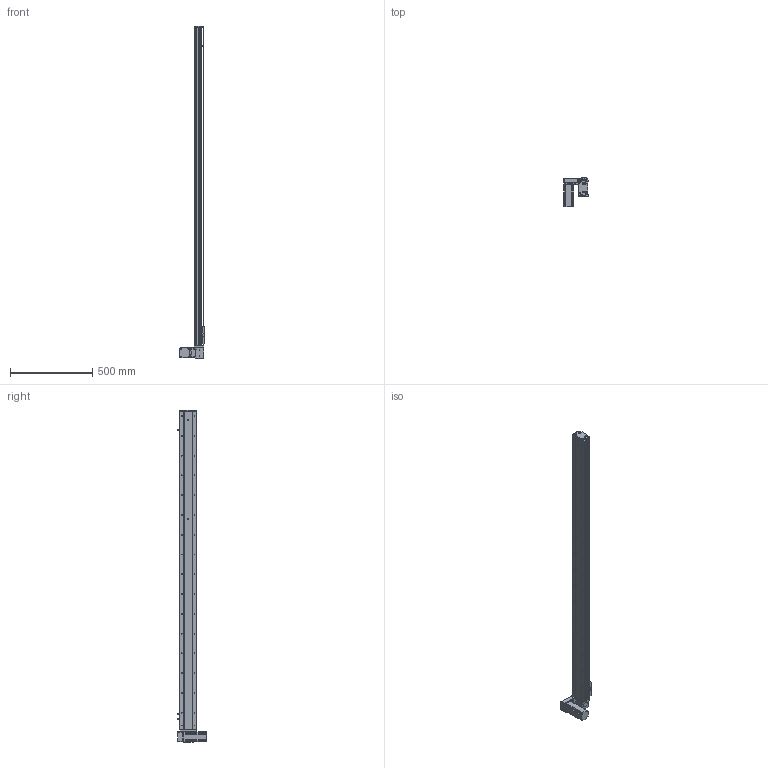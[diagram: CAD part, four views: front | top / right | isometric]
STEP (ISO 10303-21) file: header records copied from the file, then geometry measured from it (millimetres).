
FILE_DESCRIPTION (( 'STEP AP214' ), '1' );
FILE_NAME ('KSD100B-S1750-MLD-CM.STEP', '2019-11-11T03:34:34', ( '微软用户' ), ( '微软中国' ), 'SwSTEP 2.0', 'SolidWorks 2014', '' );
FILE_SCHEMA (( 'AUTOMOTIVE_DESIGN' ));
Length unit declared in the file: millimetre
Products named in the file (12): 100宽防尘板1750行程-同步带; 100宽马达安装板同步带左; 100宽同步带安装板半封闭; 100宽马达安装板同步带; 100遵傷啣肮祭湍; 100宽底板半封闭同步带1750行程; KSD100B-S1750-MLD-CM; 悵誘欶奻狟殏; 100宽马达安装板连板上下折丝杆同步带; 台达ECMA－C20604AS伺服电机; U倰嫖萇EEㄜSX672; 覜茼え100遵圉猾敕
Assembly tree (13 placements, depth 2):
  KSD100B-S1750-MLD-CM
    100宽底板半封闭同步带1750行程
    100遵傷啣肮祭湍
    100宽马达安装板同步带
    100宽同步带安装板半封闭
    100宽马达安装板同步带左
    100宽防尘板1750行程-同步带
    覜茼え100遵圉猾敕
    U倰嫖萇EEㄜSX672  x3
    台达ECMA－C20604AS伺服电机
    100宽马达安装板连板上下折丝杆同步带
    悵誘欶奻狟殏
Bounding box: 148 x 174.7 x 2015 mm (x, y, z)
Volume: 4187015.2 mm3; surface area: 1433517.8 mm2
Topology: 14 solids, 14 shells, 1691 faces, 4806 edges, 3027 vertices
Faces by surface type: cylinder 885, plane 619, cone 187
Entity records: 62379 total; most frequent: CARTESIAN_POINT 13486, DIRECTION 8390, ORIENTED_EDGE 8144, EDGE_CURVE 4072, AXIS2_PLACEMENT_3D 3093, VERTEX_POINT 2651, LINE 2204, VECTOR 2204
